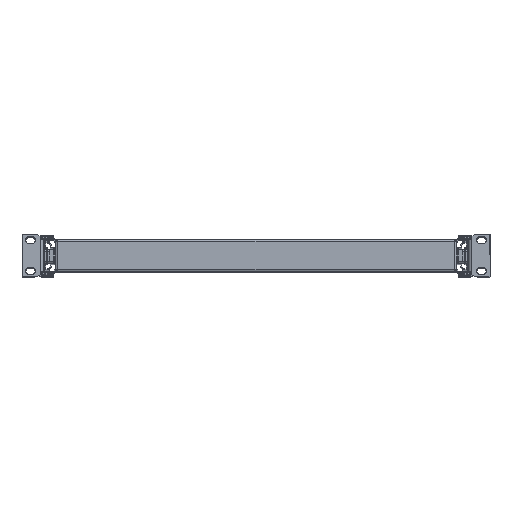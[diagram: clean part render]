
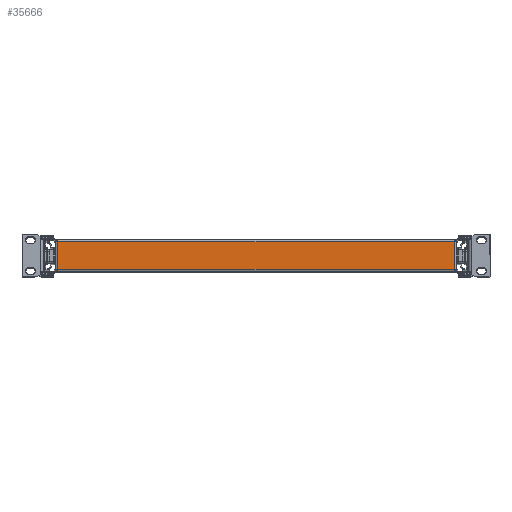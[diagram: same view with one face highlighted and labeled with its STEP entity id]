
A CAD part, top view. The second image highlights one B-rep face of the part: STEP entity #35666.
In plain terms, the highlighted planar face has unit normal (0, 0, 1).
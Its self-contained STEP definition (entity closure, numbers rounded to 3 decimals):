
#3649 = VERTEX_POINT ( 'NONE', #5803 ) ;
#4943 = DIRECTION ( 'NONE',  ( 1., 0., 0. ) ) ;
#5803 = CARTESIAN_POINT ( 'NONE',  ( 204.3, -29.7, 275. ) ) ;
#6430 = CARTESIAN_POINT ( 'NONE',  ( 204.3, -32.6, 275. ) ) ;
#10192 = VECTOR ( 'NONE', #42938, 1000. ) ;
#10884 = EDGE_CURVE ( 'NONE', #3649, #21963, #16821, .T. ) ;
#11024 = DIRECTION ( 'NONE',  ( 0., 1., 0. ) ) ;
#13608 = LINE ( 'NONE', #23540, #53138 ) ;
#14248 = VERTEX_POINT ( 'NONE', #37700 ) ;
#15798 = CARTESIAN_POINT ( 'NONE',  ( 204.3, -1.5, 275. ) ) ;
#16821 = LINE ( 'NONE', #6430, #33939 ) ;
#18499 = EDGE_CURVE ( 'NONE', #21963, #32237, #35311, .T. ) ;
#18653 = EDGE_CURVE ( 'NONE', #32237, #14248, #56837, .T. ) ;
#21963 = VERTEX_POINT ( 'NONE', #15798 ) ;
#23540 = CARTESIAN_POINT ( 'NONE',  ( -204.3, -29.7, 275. ) ) ;
#24745 = DIRECTION ( 'NONE',  ( 0., -1., 0. ) ) ;
#26186 = PLANE ( 'NONE',  #39123 ) ;
#30979 = DIRECTION ( 'NONE',  ( 0., 0., 1. ) ) ;
#32237 = VERTEX_POINT ( 'NONE', #40820 ) ;
#33939 = VECTOR ( 'NONE', #11024, 1000. ) ;
#34328 = CARTESIAN_POINT ( 'NONE',  ( -207.2, -1.5, 275. ) ) ;
#35311 = LINE ( 'NONE', #34328, #10192 ) ;
#35666 = ADVANCED_FACE ( 'NONE', ( #50444 ), #26186, .T. ) ;
#35684 = ORIENTED_EDGE ( 'NONE', *, *, #18653, .T. ) ;
#37700 = CARTESIAN_POINT ( 'NONE',  ( -204.3, -29.7, 275. ) ) ;
#39123 = AXIS2_PLACEMENT_3D ( 'NONE', #58502, #30979, #44196 ) ;
#40820 = CARTESIAN_POINT ( 'NONE',  ( -204.3, -1.5, 275. ) ) ;
#41700 = VECTOR ( 'NONE', #24745, 1000. ) ;
#42179 = EDGE_CURVE ( 'NONE', #14248, #3649, #13608, .T. ) ;
#42938 = DIRECTION ( 'NONE',  ( -1., 0., 0. ) ) ;
#43529 = CARTESIAN_POINT ( 'NONE',  ( -204.3, -1.5, 275. ) ) ;
#43587 = ORIENTED_EDGE ( 'NONE', *, *, #42179, .T. ) ;
#44196 = DIRECTION ( 'NONE',  ( 0., -1., 0. ) ) ;
#50444 = FACE_OUTER_BOUND ( 'NONE', #53754, .T. ) ;
#53138 = VECTOR ( 'NONE', #4943, 1000. ) ;
#53754 = EDGE_LOOP ( 'NONE', ( #35684, #43587, #55521, #57564 ) ) ;
#55521 = ORIENTED_EDGE ( 'NONE', *, *, #10884, .T. ) ;
#56837 = LINE ( 'NONE', #43529, #41700 ) ;
#57564 = ORIENTED_EDGE ( 'NONE', *, *, #18499, .T. ) ;
#58502 = CARTESIAN_POINT ( 'NONE',  ( -207.2, 0., 275. ) ) ;
